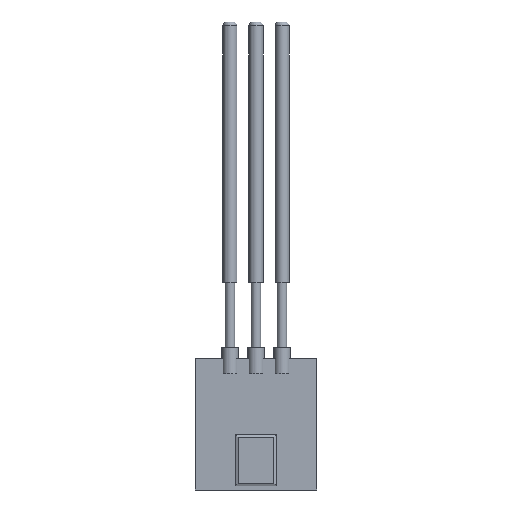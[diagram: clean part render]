
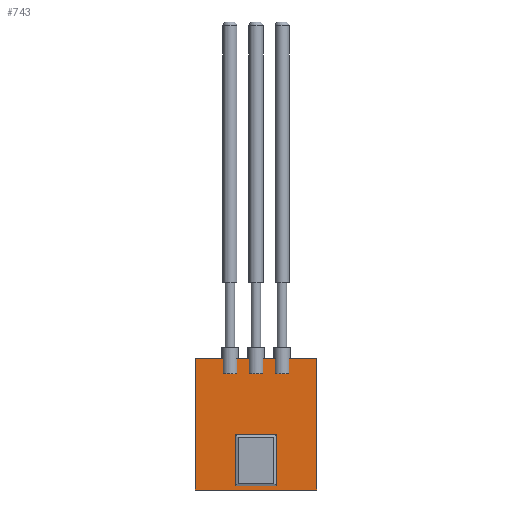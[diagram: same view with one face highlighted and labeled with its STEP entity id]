
A CAD part, front view. The second image highlights one B-rep face of the part: STEP entity #743.
In plain terms, the highlighted planar face has unit normal (0, -1, 0).
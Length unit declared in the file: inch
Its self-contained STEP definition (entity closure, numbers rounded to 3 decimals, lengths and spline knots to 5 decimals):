
#77=FACE_OUTER_BOUND('',#136,.T.);
#136=EDGE_LOOP('',(#517,#518,#519,#520));
#193=LINE('',#1139,#266);
#197=LINE('',#1147,#270);
#200=LINE('',#1153,#273);
#203=LINE('',#1158,#276);
#266=VECTOR('',#904,0.3937);
#270=VECTOR('',#910,0.3937);
#273=VECTOR('',#915,0.3937);
#276=VECTOR('',#920,0.3937);
#339=VERTEX_POINT('',#1137);
#340=VERTEX_POINT('',#1138);
#343=VERTEX_POINT('',#1146);
#345=VERTEX_POINT('',#1152);
#400=EDGE_CURVE('',#339,#340,#193,.T.);
#404=EDGE_CURVE('',#340,#343,#197,.T.);
#407=EDGE_CURVE('',#343,#345,#200,.T.);
#410=EDGE_CURVE('',#345,#339,#203,.T.);
#517=ORIENTED_EDGE('',*,*,#410,.T.);
#518=ORIENTED_EDGE('',*,*,#400,.T.);
#519=ORIENTED_EDGE('',*,*,#404,.T.);
#520=ORIENTED_EDGE('',*,*,#407,.T.);
#696=PLANE('',#825);
#743=ADVANCED_FACE('',(#77),#696,.F.);
#825=AXIS2_PLACEMENT_3D('',#1161,#924,#925);
#904=DIRECTION('',(0.,0.,-1.));
#910=DIRECTION('',(1.,0.,0.));
#915=DIRECTION('',(0.,0.,1.));
#920=DIRECTION('',(-1.,0.,0.));
#924=DIRECTION('center_axis',(0.,1.,0.));
#925=DIRECTION('ref_axis',(1.,0.,0.));
#1137=CARTESIAN_POINT('',(0.,0.,0.505));
#1138=CARTESIAN_POINT('',(0.,0.,0.));
#1139=CARTESIAN_POINT('',(0.,0.,0.505));
#1146=CARTESIAN_POINT('',(0.465,0.,0.));
#1147=CARTESIAN_POINT('',(0.,0.,0.));
#1152=CARTESIAN_POINT('',(0.465,0.,0.505));
#1153=CARTESIAN_POINT('',(0.465,0.,0.));
#1158=CARTESIAN_POINT('',(0.465,0.,0.505));
#1161=CARTESIAN_POINT('Origin',(0.2325,0.,0.2525));
